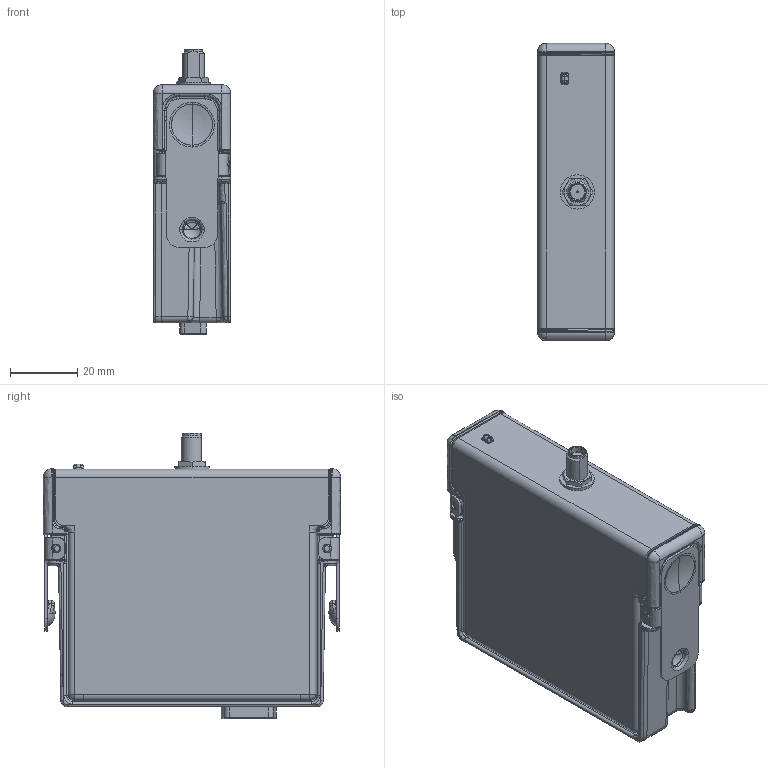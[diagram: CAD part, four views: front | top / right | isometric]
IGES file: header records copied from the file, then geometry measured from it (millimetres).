
Start section:  PTC IGES file: cu_crio-9467.igs
Global section: file name: cu_crio-9467.igs; native system: Pro/ENGINEER by Parametric Technology Corporation; preprocessor: 2011490; author: talbott; organization: Unknown; date: 20130313.140844; units: inch
Bounding box: 22.86 x 88.11 x 84.73 mm (x, y, z)
Surface area: 48469.4 mm2 (no closed solid volume)
Topology: 0 solids, 0 shells, 1387 faces, 6780 edges, 6723 vertices
Faces by surface type: bspline 678, revolution 663, extrusion 46
